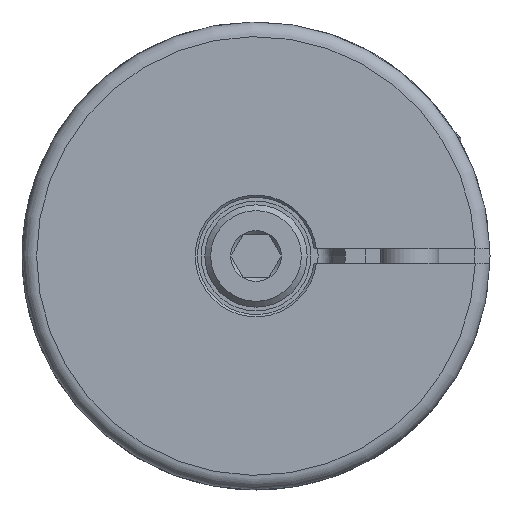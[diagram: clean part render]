
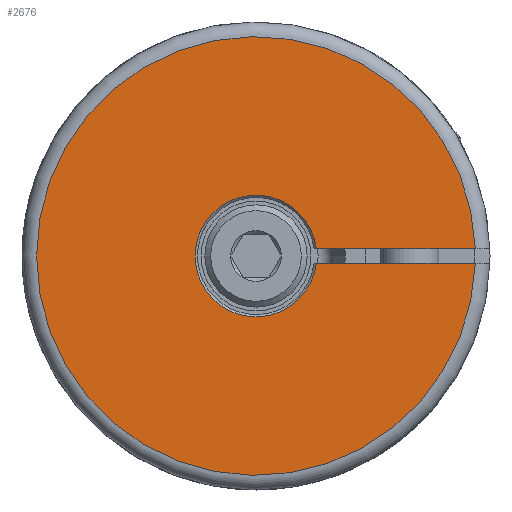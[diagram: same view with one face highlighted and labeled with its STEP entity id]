
A CAD part, left-side view. The second image highlights one B-rep face of the part: STEP entity #2676.
In plain terms, the highlighted planar face has unit normal (-1, 0, 0).
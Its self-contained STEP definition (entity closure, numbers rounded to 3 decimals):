
#126=PLANE('',#3332);
#189=CIRCLE('',#3333,15.);
#190=CIRCLE('',#3334,4.16);
#391=LINE('',#4672,#495);
#392=LINE('',#4677,#496);
#495=VECTOR('',#3740,1000.);
#496=VECTOR('',#3743,1000.);
#607=ORIENTED_EDGE('',*,*,#1399,.T.);
#608=ORIENTED_EDGE('',*,*,#1400,.F.);
#609=ORIENTED_EDGE('',*,*,#1401,.T.);
#610=ORIENTED_EDGE('',*,*,#1402,.T.);
#1399=EDGE_CURVE('',#1795,#1796,#391,.T.);
#1400=EDGE_CURVE('',#1797,#1796,#189,.T.);
#1401=EDGE_CURVE('',#1797,#1798,#392,.T.);
#1402=EDGE_CURVE('',#1798,#1795,#190,.T.);
#1795=VERTEX_POINT('',#4673);
#1796=VERTEX_POINT('',#4674);
#1797=VERTEX_POINT('',#4676);
#1798=VERTEX_POINT('',#4678);
#2140=EDGE_LOOP('',(#607,#608,#609,#610));
#2384=FACE_BOUND('',#2140,.T.);
#2676=ADVANCED_FACE('',(#2384),#126,.F.);
#3332=AXIS2_PLACEMENT_3D('',#4671,#3738,#3739);
#3333=AXIS2_PLACEMENT_3D('',#4675,#3741,#3742);
#3334=AXIS2_PLACEMENT_3D('',#4679,#3744,#3745);
#3738=DIRECTION('',(1.,0.,0.));
#3739=DIRECTION('',(0.,0.,-1.));
#3740=DIRECTION('',(0.,-1.,0.));
#3741=DIRECTION('',(1.,0.,0.));
#3742=DIRECTION('',(0.,0.,-1.));
#3743=DIRECTION('',(0.,1.,0.));
#3744=DIRECTION('',(1.,0.,0.));
#3745=DIRECTION('',(0.,0.,-1.));
#4671=CARTESIAN_POINT('',(0.,0.,0.));
#4672=CARTESIAN_POINT('',(0.,0.,0.5));
#4673=CARTESIAN_POINT('',(0.,-4.13,0.5));
#4674=CARTESIAN_POINT('',(0.,-14.992,0.5));
#4675=CARTESIAN_POINT('',(0.,0.,0.));
#4676=CARTESIAN_POINT('',(0.,-14.992,-0.5));
#4677=CARTESIAN_POINT('',(0.,-17.,-0.5));
#4678=CARTESIAN_POINT('',(0.,-4.13,-0.5));
#4679=CARTESIAN_POINT('',(0.,0.,0.));
